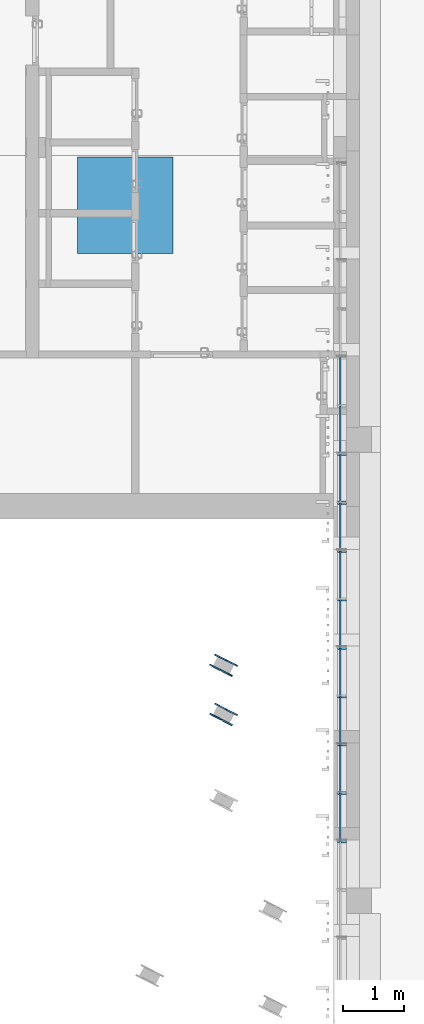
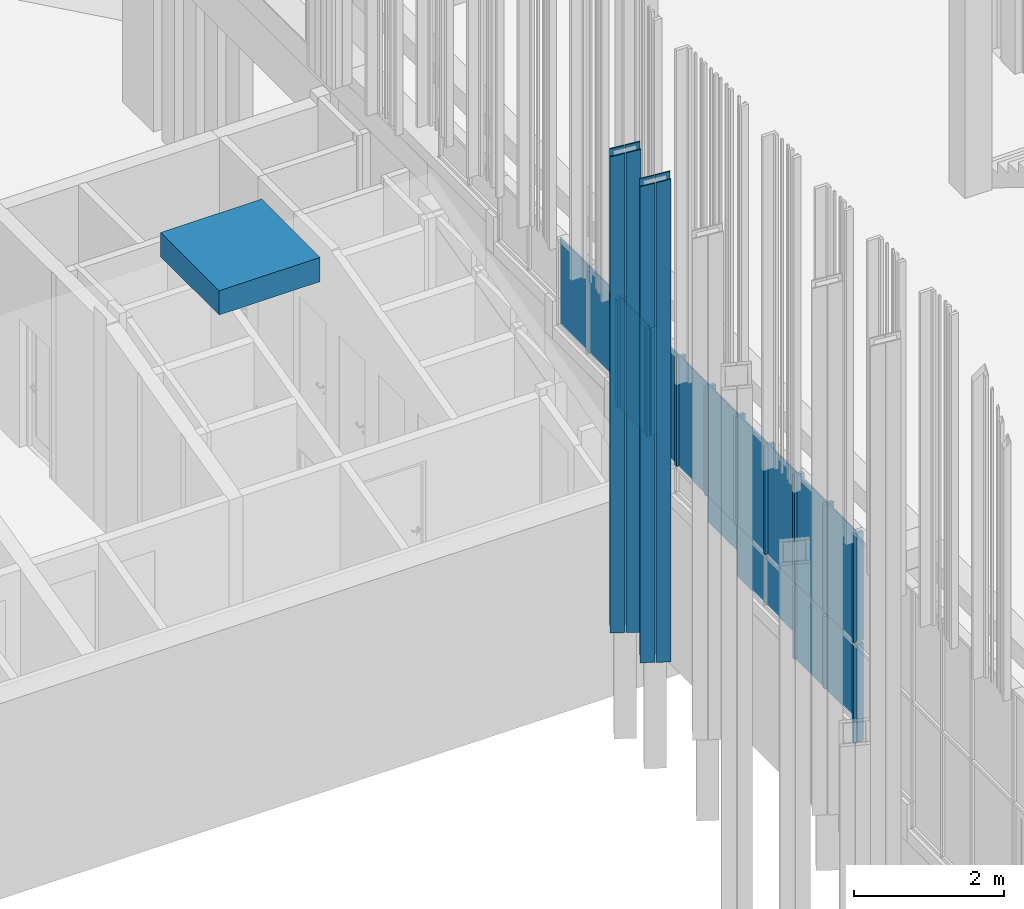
# One storey, part 31 of 390: 36 discrete accessories, 1 element without a shape of its own.
"""IFC2X3 building model written with IfcOpenShell, lengths in millimetres."""

from ifc_helpers import new_model, entity, si_unit, converted_unit, derived_unit, money_unit, direction, frame, origin_with_axes, place, context, subcontext, project, spatial, polyline, outline, extrude, faceted_brep, source, transform, mapped, material, material_list, type_object, element, aggregate, save


model = new_model("IFC2X3")

# Units and contexts
model_context = context("Model", 3, precision=1e-05, world=origin_with_axes(), true_north=direction((0.0, 1.0)))
body_context = subcontext(model_context, "Body", "Model", "MODEL_VIEW")
ifc_project = project(units=[si_unit("LENGTHUNIT", "METRE", prefix="MILLI"), si_unit("AREAUNIT", "SQUARE_METRE"), si_unit("VOLUMEUNIT", "CUBIC_METRE"), converted_unit("PLANEANGLEUNIT", "DEGREE", entity("IfcPlaneAngleMeasure", 0.0174532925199), si_unit("PLANEANGLEUNIT", "RADIAN"), dimensions=[0, 0, 0, 0, 0, 0, 0]), si_unit("SOLIDANGLEUNIT", "STERADIAN"), money_unit("EUR"), converted_unit("TIMEUNIT", "Year", entity("IfcTimeMeasure", 31556926.0), si_unit("TIMEUNIT", "SECOND"), dimensions=[0, 0, 1, 0, 0, 0, 0]), si_unit("MASSUNIT", "GRAM", prefix="KILO"), si_unit("THERMODYNAMICTEMPERATUREUNIT", "DEGREE_CELSIUS"), si_unit("LUMINOUSINTENSITYUNIT", "LUMEN"), si_unit("ENERGYUNIT", "JOULE", prefix="MEGA"), derived_unit("THERMALCONDUCTANCEUNIT", [(si_unit("POWERUNIT", "WATT"), 1), (si_unit("LENGTHUNIT", "METRE"), -1), (si_unit("THERMODYNAMICTEMPERATUREUNIT", "KELVIN"), -1)]), derived_unit("SPECIFICHEATCAPACITYUNIT", [(si_unit("ENERGYUNIT", "JOULE"), 1), (si_unit("MASSUNIT", "GRAM", prefix="KILO"), -1), (si_unit("THERMODYNAMICTEMPERATUREUNIT", "KELVIN"), -1)]), derived_unit("MASSDENSITYUNIT", [(si_unit("MASSUNIT", "GRAM", prefix="KILO"), 1), (si_unit("VOLUMEUNIT", "CUBIC_METRE"), -1)])], contexts=[model_context])

# Site, building, storey
site_placement = place(None, origin_with_axes())
site = spatial("IfcSite", under=ifc_project, at=site_placement, Name="Site", CompositionType="ELEMENT")
building_placement = place(site_placement, origin_with_axes())
building = spatial("IfcBuilding", under=site, at=building_placement, Name="Building", CompositionType="ELEMENT")
storey_placement = place(building_placement, origin_with_axes())
storey = spatial("IfcBuildingStorey", under=building, at=storey_placement, Name="1 korrus", CompositionType="ELEMENT", Elevation=0.0)

# Curtain wall, discrete accessories
curtain_wall_type = type_object("IfcCurtainWallType", Name="KLF-14", PredefinedType="NOTDEFINED")
curtain_wall_placement = place(storey_placement, frame((122599.999993, 59672.5295083, -0.000201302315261), z_axis=(0.0, 0.0, 1.0), x_axis=(1.0, 0.0, 0.0)))
curtain_wall = element("IfcCurtainWall", 1, at=curtain_wall_placement, inside=storey, type_object=curtain_wall_type, Name="Klaasfassaad")
ifc_material_1 = material(Name="Klaas")
discrete_accessory_type_1 = type_object("IfcDiscreteAccessoryType", Name="Distinct Panel 785 x 1820 x 20")
discrete_accessory_1_placement = place(curtain_wall_placement, frame((0.0, 0.0, 3220.71426755), z_axis=(0.0, 0.0, 1.0), x_axis=(1.7016819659e-10, -1.0, 0.0)))
discrete_accessory_1 = element("IfcDiscreteAccessory", 2, at=discrete_accessory_1_placement, type_object=discrete_accessory_type_1, material=ifc_material_1, Name="KLF-14 klaaspakett", context=body_context, shape_type="SweptSolid", body=[
    extrude(outline(polyline([(-550.470498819, -1184.28558336), (234.529510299, -1184.28558336), (234.529510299, 635.714138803), (229.960520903, 635.714138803), (229.960520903, 230.714538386), (-550.470498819, 230.714236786), (-550.470498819, -1184.28558336)])), frame((0.0, -9.99999999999, 0.0), z_axis=(0.0, 1.0, 0.0), x_axis=(1.0, 0.0, 0.0)), (0.0, 0.0, 1.0), 20.0),
])
discrete_accessory_2_placement = place(curtain_wall_placement, frame((1.04527941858e-06, -6142.0295103, 3504.99999553), z_axis=(0.0, 0.0, 1.0), x_axis=(1.70186299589e-10, -1.0, 0.0)))
discrete_accessory_2 = element("IfcDiscreteAccessory", 3, at=discrete_accessory_2_placement, type_object=discrete_accessory_type_1, material=ifc_material_1, Name="KLF-14 klaaspakett", context=body_context, shape_type="SweptSolid", body=[
    extrude(outline(polyline([(-392.500011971, -899.999855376), (392.499997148, -899.999855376), (392.499997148, 919.999866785), (-392.500011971, 919.999866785), (-392.500011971, -899.999855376)])), frame((0.0, -10.0, 0.0), z_axis=(0.0, 1.0, 0.0), x_axis=(1.0, 0.0, 0.0)), (0.0, 0.0, 1.0), 20.0),
])
discrete_accessory_3_placement = place(curtain_wall_placement, frame((7.77234276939e-07, -4567.0295103, 3504.99999553), z_axis=(0.0, 0.0, 1.0), x_axis=(1.70186299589e-10, -1.0, 0.0)))
discrete_accessory_3 = element("IfcDiscreteAccessory", 4, at=discrete_accessory_3_placement, type_object=discrete_accessory_type_1, material=ifc_material_1, Name="KLF-14 klaaspakett", context=body_context, shape_type="SweptSolid", body=[
    extrude(outline(polyline([(-392.500011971, -899.999855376), (392.499997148, -899.999855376), (392.499997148, 919.999866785), (-392.500011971, 919.999866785), (-392.500011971, -899.999855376)])), frame((0.0, -9.99999999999, 0.0), z_axis=(0.0, 1.0, 0.0), x_axis=(1.0, 0.0, 0.0)), (0.0, 0.0, 1.0), 20.0),
])
discrete_accessory_4_placement = place(curtain_wall_placement, frame((2.41172415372e-07, -1417.0295103, 3504.99999553), z_axis=(0.0, 0.0, 1.0), x_axis=(1.70186299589e-10, -1.0, 0.0)))
discrete_accessory_4 = element("IfcDiscreteAccessory", 5, at=discrete_accessory_4_placement, type_object=discrete_accessory_type_1, material=ifc_material_1, Name="KLF-14 klaaspakett", context=body_context, shape_type="SweptSolid", body=[
    extrude(outline(polyline([(-392.500011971, -899.999855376), (392.499997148, -899.999855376), (392.499997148, 919.999866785), (-392.500011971, 919.999866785), (-392.500011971, -899.999855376)])), frame((0.0, -10.0, 0.0), z_axis=(0.0, 1.0, 0.0), x_axis=(1.0, 0.0, 0.0)), (0.0, 0.0, 1.0), 20.0),
])
discrete_accessory_5_placement = place(curtain_wall_placement, frame((5.09203346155e-07, -2992.0295103, 3504.99999553), z_axis=(0.0, 0.0, 1.0), x_axis=(1.70186299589e-10, -1.0, 0.0)))
discrete_accessory_5 = element("IfcDiscreteAccessory", 6, at=discrete_accessory_5_placement, type_object=discrete_accessory_type_1, material=ifc_material_1, Name="KLF-14 klaaspakett", context=body_context, shape_type="SweptSolid", body=[
    extrude(outline(polyline([(-392.500011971, -899.999855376), (392.499997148, -899.999855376), (392.499997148, 919.999866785), (-392.500011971, 919.999866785), (-392.500011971, -899.999855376)])), frame((0.0, -10.0, 0.0), z_axis=(0.0, 1.0, 0.0), x_axis=(1.0, 0.0, 0.0)), (0.0, 0.0, 1.0), 20.0),
])
discrete_accessory_type_2 = type_object("IfcDiscreteAccessoryType", Name="Distinct Panel 790 x 1820 x 20")
discrete_accessory_6_placement = place(curtain_wall_placement, frame((3.75180775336e-07, -2204.5295103, 3504.99999553), z_axis=(0.0, 0.0, 1.0), x_axis=(1.70170488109e-10, -1.0, 0.0)))
discrete_accessory_6 = element("IfcDiscreteAccessory", 7, at=discrete_accessory_6_placement, type_object=discrete_accessory_type_2, material=ifc_material_1, Name="KLF-14 klaaspakett", context=body_context, shape_type="SweptSolid", body=[
    extrude(outline(polyline([(-395.000014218, -899.999860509), (395.0, -899.999860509), (395.0, 919.999858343), (-394.999986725, 919.999858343), (-395.000014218, -899.999860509)])), frame((0.0, -10.0, 0.0), z_axis=(0.0, 1.0, 0.0), x_axis=(1.0, 0.0, 0.0)), (0.0, 0.0, 1.0), 20.0),
])
discrete_accessory_7_placement = place(curtain_wall_placement, frame((6.43225916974e-07, -3779.5295103, 3504.99999553), z_axis=(0.0, 0.0, 1.0), x_axis=(1.70188476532e-10, -1.0, 0.0)))
discrete_accessory_7 = element("IfcDiscreteAccessory", 8, at=discrete_accessory_7_placement, type_object=discrete_accessory_type_2, material=ifc_material_1, Name="KLF-14 klaaspakett", context=body_context, shape_type="SweptSolid", body=[
    extrude(outline(polyline([(-395.000014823, -899.999855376), (394.999997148, -899.999855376), (394.999997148, 919.999866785), (-394.999987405, 919.999866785), (-395.000014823, -899.999855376)])), frame((0.0, -10.0, 0.0), z_axis=(0.0, 1.0, 0.0), x_axis=(1.0, 0.0, 0.0)), (0.0, 0.0, 1.0), 20.0),
])
discrete_accessory_8_placement = place(curtain_wall_placement, frame((9.11256847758e-07, -5354.5295103, 3504.99999553), z_axis=(0.0, 0.0, 1.0), x_axis=(1.70170488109e-10, -1.0, 0.0)))
discrete_accessory_8 = element("IfcDiscreteAccessory", 9, at=discrete_accessory_8_placement, type_object=discrete_accessory_type_2, material=ifc_material_1, Name="KLF-14 klaaspakett", context=body_context, shape_type="SweptSolid", body=[
    extrude(outline(polyline([(-395.000014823, -899.999855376), (394.999997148, -899.999855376), (394.999997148, 919.999866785), (-394.999987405, 919.999866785), (-395.000014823, -899.999855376)])), frame((0.0, -10.0, 0.0), z_axis=(0.0, 1.0, 0.0), x_axis=(1.0, 0.0, 0.0)), (0.0, 0.0, 1.0), 20.0),
])
discrete_accessory_9_placement = place(curtain_wall_placement, frame((1.07135633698e-07, -629.529510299, 3504.99999553), z_axis=(0.0, 0.0, 1.0), x_axis=(1.70188476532e-10, -1.0, 0.0)))
discrete_accessory_9 = element("IfcDiscreteAccessory", 10, at=discrete_accessory_9_placement, type_object=discrete_accessory_type_2, material=ifc_material_1, Name="KLF-14 klaaspakett", context=body_context, shape_type="SweptSolid", body=[
    extrude(outline(polyline([(-395.000014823, -899.999855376), (394.999997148, -899.999855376), (394.999997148, 919.999866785), (-394.999987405, 919.999866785), (-395.000014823, -899.999855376)])), frame((0.0, -10.0, 0.0), z_axis=(0.0, 1.0, 0.0), x_axis=(1.0, 0.0, 0.0)), (0.0, 0.0, 1.0), 20.0),
])
discrete_accessory_type_3 = type_object("IfcDiscreteAccessoryType", Name="Distinct Panel 785 x 1645 x 20")
discrete_accessory_10_placement = place(curtain_wall_placement, frame((1.07218056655e-06, -6300.00011646, 1512.85725766), z_axis=(0.0, 0.0, 1.0), x_axis=(1.70186299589e-10, -1.0, 0.0)))
discrete_accessory_10 = element("IfcDiscreteAccessory", 11, at=discrete_accessory_10_placement, type_object=discrete_accessory_type_3, material=ifc_material_1, Name="KLF-14 klaaspakett", context=body_context, shape_type="SweptSolid", body=[
    extrude(outline(polyline([(-550.470594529, -1072.14287108), (234.529392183, -1072.14287108), (234.529392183, 572.857077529), (229.960844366, 572.857077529), (229.960844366, 162.857264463), (-550.470619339, 162.857239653), (-550.470594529, -1072.14287108)])), frame((0.0, -10.0, 0.0), z_axis=(0.0, 1.0, 0.0), x_axis=(1.0, 0.0, 0.0)), (0.0, 0.0, 1.0), 20.0),
])
discrete_accessory_type_4 = type_object("IfcDiscreteAccessoryType", Name="Distinct Panel 790 x 1415 x 20")
discrete_accessory_11_placement = place(curtain_wall_placement, frame((-1.48205003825e-07, 871.012975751, 3551.99996361), z_axis=(0.0, 0.0, 1.0), x_axis=(1.70188476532e-10, -1.0, 0.0)))
discrete_accessory_11 = element("IfcDiscreteAccessory", 12, at=discrete_accessory_11_placement, type_object=discrete_accessory_type_4, material=ifc_material_1, Name="KLF-14 klaaspakett", context=body_context, shape_type="SweptSolid", body=[
    extrude(outline(polyline([(-469.457495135, -852.999895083), (320.542495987, -852.999895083), (320.542495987, 561.999938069), (-469.457495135, 561.999938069), (-469.457495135, -852.999895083)])), frame((0.0, -9.99999999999, 0.0), z_axis=(0.0, 1.0, 0.0), x_axis=(1.0, 0.0, 0.0)), (0.0, 0.0, 1.0), 20.0),
])
discrete_accessory_type_5 = type_object("IfcDiscreteAccessoryType", Name="Distinct Panel 785 x 1235 x 20")
discrete_accessory_12_placement = place(curtain_wall_placement, frame((8.04135424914e-07, -4725.00021854, 1805.71445895), z_axis=(0.0, 0.0, 1.0), x_axis=(1.70186299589e-10, -1.0, 0.0)))
discrete_accessory_12 = element("IfcDiscreteAccessory", 13, at=discrete_accessory_12_placement, type_object=discrete_accessory_type_5, material=ifc_material_1, Name="KLF-14 klaaspakett", context=body_context, shape_type="SweptSolid", body=[
    extrude(outline(polyline([(-550.470707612, -779.285669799), (234.529286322, -779.285669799), (234.529286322, 455.714308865), (229.960880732, 455.714308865), (229.960880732, 45.7141245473), (-550.470707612, 45.7141245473), (-550.470707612, -779.285669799)])), frame((0.0, -10.0, 0.0), z_axis=(0.0, 1.0, 0.0), x_axis=(1.0, 0.0, 0.0)), (0.0, 0.0, 1.0), 20.0),
])
discrete_accessory_type_6 = type_object("IfcDiscreteAccessoryType", Name="Distinct Panel 790 x 825 x 20")
discrete_accessory_13_placement = place(curtain_wall_placement, frame((6.5590199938e-07, -3853.98707404, 2078.00016672), z_axis=(0.0, 0.0, 1.0), x_axis=(1.70188476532e-10, -1.0, 0.0)))
discrete_accessory_13 = element("IfcDiscreteAccessory", 14, at=discrete_accessory_13_placement, type_object=discrete_accessory_type_6, material=ifc_material_1, Name="KLF-14 klaaspakett", context=body_context, shape_type="SweptSolid", body=[
    extrude(outline(polyline([(-469.457560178, -506.999962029), (320.542442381, -506.999962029), (320.542442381, 317.999821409), (-469.45757277, 318.000048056), (-469.457560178, -506.999962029)])), frame((0.0, -10.0, 0.0), z_axis=(0.0, 1.0, 0.0), x_axis=(1.0, 0.0, 0.0)), (0.0, 0.0, 1.0), 20.0),
])
discrete_accessory_type_7 = type_object("IfcDiscreteAccessoryType", Name="Distinct Panel 785 x 825 x 20")
discrete_accessory_14_placement = place(curtain_wall_placement, frame((5.36061861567e-07, -3150.00017068, 2098.57158526), z_axis=(0.0, 0.0, 1.0), x_axis=(1.70186299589e-10, -1.0, 0.0)))
discrete_accessory_14 = element("IfcDiscreteAccessory", 15, at=discrete_accessory_14_placement, type_object=discrete_accessory_type_7, material=ifc_material_1, Name="KLF-14 klaaspakett", context=body_context, shape_type="SweptSolid", body=[
    extrude(outline(polyline([(-550.47066294, -486.428543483), (234.52934574, -486.428543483), (234.52934574, 338.571466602), (229.960824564, 338.571466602), (229.960824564, -71.4285477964), (-550.470650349, -71.4285603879), (-550.47066294, -486.428543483)])), frame((0.0, -9.99999999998, 0.0), z_axis=(0.0, 1.0, 0.0), x_axis=(1.0, 0.0, 0.0)), (0.0, 0.0, 1.0), 20.0),
])
discrete_accessory_type_8 = type_object("IfcDiscreteAccessoryType", Name="Distinct Panel 790 x 1235 x 20")
discrete_accessory_15_placement = place(curtain_wall_placement, frame((9.23918719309e-07, -5428.98707036, 1832.00011143), z_axis=(0.0, 0.0, 1.0), x_axis=(1.70170488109e-10, -1.0, 0.0)))
discrete_accessory_15 = element("IfcDiscreteAccessory", 16, at=discrete_accessory_15_placement, type_object=discrete_accessory_type_8, material=ifc_material_1, Name="KLF-14 klaaspakett", context=body_context, shape_type="SweptSolid", body=[
    extrude(outline(polyline([(-469.457558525, -753.000017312), (320.542434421, -753.000017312), (320.542434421, 482.000111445), (-469.457558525, 481.999961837), (-469.457558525, -753.000017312)])), frame((0.0, -9.99999999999, 0.0), z_axis=(0.0, 1.0, 0.0), x_axis=(1.0, 0.0, 0.0)), (0.0, 0.0, 1.0), 20.0),
])
ifc_material_2 = material(Name="Aluminium MUST")
ifc_material_list = material_list([ifc_material_2, ifc_material_2])
discrete_accessory_type_9 = type_object("IfcDiscreteAccessoryType", Name="50 x 150")
discrete_accessory_16_placement = place(curtain_wall_placement, frame((3.07963432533e-07, -1809.5295103, 2585.00012874), z_axis=(0.0, 0.0, 1.0), x_axis=(1.70178393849e-10, -1.0, 0.0)))
discrete_accessory_16 = element("IfcDiscreteAccessory", 17, at=discrete_accessory_16_placement, type_object=discrete_accessory_type_9, material=ifc_material_list, Name="KLF-14 profiil", context=body_context, shape_type="SweptSolid", body=[
    extrude(outline(polyline([(100.000000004, -24.999999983), (99.9999999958, 25.000000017), (9.99999999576, 25.0000000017), (10.0000000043, -24.9999999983), (100.000000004, -24.999999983)])), frame((0.0, 0.0, 25.0), z_axis=(0.0, 0.0, 1.0), x_axis=(1.70178393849e-10, 1.0, 0.0)), (0.0, 0.0, 1.0), 1764.99973357),
    extrude(outline(polyline([(-50.0000000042, 24.9999999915), (-49.9999999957, -25.0000000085), (-9.99999999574, -25.0000000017), (-10.0000000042, 24.9999999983), (-50.0000000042, 24.9999999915)])), frame((0.0, 0.0, 25.0), z_axis=(0.0, 0.0, 1.0), x_axis=(1.70178393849e-10, 1.0, 0.0)), (0.0, 0.0, 1.0), 1764.99973357),
])
discrete_accessory_17_placement = place(curtain_wall_placement, frame((1.74367187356e-07, -1024.5295103, 2585.00012874), z_axis=(0.0, 0.0, 1.0), x_axis=(1.70187388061e-10, -1.0, 0.0)))
discrete_accessory_17 = element("IfcDiscreteAccessory", 18, at=discrete_accessory_17_placement, type_object=discrete_accessory_type_9, material=ifc_material_list, Name="KLF-14 profiil", context=body_context, shape_type="SweptSolid", body=[
    extrude(outline(polyline([(100.000000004, -24.999999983), (99.9999999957, 25.000000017), (9.99999999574, 25.0000000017), (10.0000000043, -24.9999999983), (100.000000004, -24.999999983)])), frame((0.0, 0.0, 25.0), z_axis=(0.0, 0.0, 1.0), x_axis=(1.70187388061e-10, 1.0, 0.0)), (0.0, 0.0, 1.0), 1764.99973357),
    extrude(outline(polyline([(-50.0000000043, 24.9999999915), (-49.9999999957, -25.0000000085), (-9.99999999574, -25.0000000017), (-10.0000000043, 24.9999999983), (-50.0000000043, 24.9999999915)])), frame((0.0, 0.0, 25.0), z_axis=(0.0, 0.0, 1.0), x_axis=(1.70187388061e-10, 1.0, 0.0)), (0.0, 0.0, 1.0), 1764.99973357),
])
discrete_accessory_18_placement = place(curtain_wall_placement, frame((3.9918290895e-08, -234.529510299, 2585.00012874), z_axis=(0.0, 0.0, 1.0), x_axis=(1.70178336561e-10, -1.0, 0.0)))
discrete_accessory_18 = element("IfcDiscreteAccessory", 19, at=discrete_accessory_18_placement, type_object=discrete_accessory_type_9, material=ifc_material_list, Name="KLF-14 profiil", context=body_context, shape_type="SweptSolid", body=[
    extrude(outline(polyline([(100.000000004, -24.999999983), (99.9999999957, 25.000000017), (9.99999999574, 25.0000000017), (10.0000000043, -24.9999999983), (100.000000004, -24.999999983)])), frame((0.0, 0.0, 25.0), z_axis=(0.0, 0.0, 1.0), x_axis=(1.70178336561e-10, 1.0, 0.0)), (0.0, 0.0, 1.0), 1764.99973357),
    extrude(outline(polyline([(-50.0000000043, 24.9999999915), (-49.9999999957, -25.0000000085), (-9.99999999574, -25.0000000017), (-10.0000000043, 24.9999999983), (-50.0000000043, 24.9999999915)])), frame((0.0, 0.0, 25.0), z_axis=(0.0, 0.0, 1.0), x_axis=(1.70178336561e-10, 1.0, 0.0)), (0.0, 0.0, 1.0), 1764.99973357),
])
discrete_accessory_19_placement = place(curtain_wall_placement, frame((1.11207043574e-06, -6534.5295103, 2585.00012874), z_axis=(0.0, 0.0, 1.0), x_axis=(1.70187388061e-10, -1.0, 0.0)))
discrete_accessory_19 = element("IfcDiscreteAccessory", 20, at=discrete_accessory_19_placement, type_object=discrete_accessory_type_9, material=ifc_material_list, Name="KLF-14 profiil", context=body_context, shape_type="SweptSolid", body=[
    extrude(outline(polyline([(100.000000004, -24.999999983), (99.9999999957, 25.000000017), (9.99999999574, 25.0000000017), (10.0000000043, -24.9999999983), (100.000000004, -24.999999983)])), frame((0.0, 0.0, 25.0), z_axis=(0.0, 0.0, 1.0), x_axis=(1.70187388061e-10, 1.0, 0.0)), (0.0, 0.0, 1.0), 1764.99973357),
    extrude(outline(polyline([(-50.0000000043, 24.9999999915), (-49.9999999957, -25.0000000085), (-9.99999999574, -25.0000000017), (-10.0000000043, 24.9999999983), (-50.0000000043, 24.9999999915)])), frame((0.0, 0.0, 25.0), z_axis=(0.0, 0.0, 1.0), x_axis=(1.70187388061e-10, 1.0, 0.0)), (0.0, 0.0, 1.0), 1764.99973357),
])
discrete_accessory_20_placement = place(curtain_wall_placement, frame((1.11207043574e-06, -6534.5295103, 920.000173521), z_axis=(0.0, 0.0, 1.0), x_axis=(1.70187388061e-10, -1.0, 0.0)))
discrete_accessory_20 = element("IfcDiscreteAccessory", 21, at=discrete_accessory_20_placement, type_object=discrete_accessory_type_9, material=ifc_material_list, Name="KLF-14 profiil", context=body_context, shape_type="SweptSolid", body=[
    extrude(outline(polyline([(100.000000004, -24.999999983), (99.9999999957, 25.000000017), (9.99999999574, 25.0000000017), (10.0000000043, -24.9999999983), (100.000000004, -24.999999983)])), frame((0.0, 0.0, 50.0), z_axis=(0.0, 0.0, 1.0), x_axis=(1.70187388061e-10, 1.0, 0.0)), (0.0, 0.0, 1.0), 1589.99995522),
    extrude(outline(polyline([(-50.0000000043, 24.9999999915), (-49.9999999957, -25.0000000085), (-9.99999999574, -25.0000000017), (-10.0000000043, 24.9999999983), (-50.0000000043, 24.9999999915)])), frame((0.0, 0.0, 50.0), z_axis=(0.0, 0.0, 1.0), x_axis=(1.70187388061e-10, 1.0, 0.0)), (0.0, 0.0, 1.0), 1589.99995522),
])
discrete_accessory_21_placement = place(curtain_wall_placement, frame((9.78474190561e-07, -5749.5295103, 1330.00000819), z_axis=(0.0, 0.0, 1.0), x_axis=(1.70178393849e-10, -1.0, 0.0)))
discrete_accessory_21 = element("IfcDiscreteAccessory", 22, at=discrete_accessory_21_placement, type_object=discrete_accessory_type_9, material=ifc_material_list, Name="KLF-14 profiil", context=body_context, shape_type="SweptSolid", body=[
    extrude(outline(polyline([(100.000000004, -24.999999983), (99.9999999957, 25.000000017), (9.99999999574, 25.0000000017), (10.0000000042, -24.9999999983), (100.000000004, -24.999999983)])), frame((0.0, 0.0, 50.0000001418), z_axis=(0.0, 0.0, 1.0), x_axis=(1.70178393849e-10, 1.0, 0.0)), (0.0, 0.0, 1.0), 1180.00012041),
    extrude(outline(polyline([(-50.0000000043, 24.9999999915), (-49.9999999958, -25.0000000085), (-9.99999999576, -25.0000000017), (-10.0000000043, 24.9999999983), (-50.0000000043, 24.9999999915)])), frame((0.0, 0.0, 49.999999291), z_axis=(0.0, 0.0, 1.0), x_axis=(1.70178393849e-10, 1.0, 0.0)), (0.0, 0.0, 1.0), 1180.00012126),
])
discrete_accessory_22_placement = place(curtain_wall_placement, frame((8.44039504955e-07, -4959.5295103, 1330.00014574), z_axis=(0.0, 0.0, 1.0), x_axis=(1.70178393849e-10, -1.0, 0.0)))
discrete_accessory_22 = element("IfcDiscreteAccessory", 23, at=discrete_accessory_22_placement, type_object=discrete_accessory_type_9, material=ifc_material_list, Name="KLF-14 profiil", context=body_context, shape_type="SweptSolid", body=[
    extrude(outline(polyline([(100.000000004, -24.999999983), (99.9999999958, 25.000000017), (9.99999999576, 25.0000000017), (10.0000000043, -24.9999999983), (100.000000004, -24.999999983)])), frame((0.0, 0.0, 50.0), z_axis=(0.0, 0.0, 1.0), x_axis=(1.70178393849e-10, 1.0, 0.0)), (0.0, 0.0, 1.0), 1179.99998301),
    extrude(outline(polyline([(-50.0000000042, 24.9999999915), (-49.9999999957, -25.0000000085), (-9.99999999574, -25.0000000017), (-10.0000000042, 24.9999999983), (-50.0000000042, 24.9999999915)])), frame((0.0, 0.0, 50.0), z_axis=(0.0, 0.0, 1.0), x_axis=(1.70178393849e-10, 1.0, 0.0)), (0.0, 0.0, 1.0), 1179.99998301),
])
discrete_accessory_23_placement = place(curtain_wall_placement, frame((9.78474190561e-07, -5749.5295103, 2585.00012874), z_axis=(0.0, 0.0, 1.0), x_axis=(1.70178393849e-10, -1.0, 0.0)))
discrete_accessory_23 = element("IfcDiscreteAccessory", 24, at=discrete_accessory_23_placement, type_object=discrete_accessory_type_9, material=ifc_material_list, Name="KLF-14 profiil", context=body_context, shape_type="SweptSolid", body=[
    extrude(outline(polyline([(100.000000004, -24.999999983), (99.9999999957, 25.000000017), (9.99999999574, 25.0000000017), (10.0000000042, -24.9999999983), (100.000000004, -24.999999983)])), frame((0.0, 0.0, 25.0), z_axis=(0.0, 0.0, 1.0), x_axis=(1.70178393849e-10, 1.0, 0.0)), (0.0, 0.0, 1.0), 1764.99973357),
    extrude(outline(polyline([(-50.0000000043, 24.9999999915), (-49.9999999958, -25.0000000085), (-9.99999999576, -25.0000000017), (-10.0000000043, 24.9999999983), (-50.0000000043, 24.9999999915)])), frame((0.0, 0.0, 25.0), z_axis=(0.0, 0.0, 1.0), x_axis=(1.70178393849e-10, 1.0, 0.0)), (0.0, 0.0, 1.0), 1764.99973357),
])
discrete_accessory_24_placement = place(curtain_wall_placement, frame((5.75994363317e-07, -3384.5295103, 2585.00012874), z_axis=(0.0, 0.0, 1.0), x_axis=(1.70187388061e-10, -1.0, 0.0)))
discrete_accessory_24 = element("IfcDiscreteAccessory", 25, at=discrete_accessory_24_placement, type_object=discrete_accessory_type_9, material=ifc_material_list, Name="KLF-14 profiil", context=body_context, shape_type="SweptSolid", body=[
    extrude(outline(polyline([(100.000000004, -24.999999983), (99.9999999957, 25.000000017), (9.99999999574, 25.0000000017), (10.0000000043, -24.9999999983), (100.000000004, -24.999999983)])), frame((0.0, 0.0, 25.0), z_axis=(0.0, 0.0, 1.0), x_axis=(1.70187388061e-10, 1.0, 0.0)), (0.0, 0.0, 1.0), 1764.99973357),
    extrude(outline(polyline([(-50.0000000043, 24.9999999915), (-49.9999999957, -25.0000000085), (-9.99999999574, -25.0000000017), (-10.0000000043, 24.9999999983), (-50.0000000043, 24.9999999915)])), frame((0.0, 0.0, 25.0), z_axis=(0.0, 0.0, 1.0), x_axis=(1.70187388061e-10, 1.0, 0.0)), (0.0, 0.0, 1.0), 1764.99973357),
])
discrete_accessory_25_placement = place(curtain_wall_placement, frame((4.42398118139e-07, -2599.5295103, 2585.00012874), z_axis=(0.0, 0.0, 1.0), x_axis=(1.70178393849e-10, -1.0, 0.0)))
discrete_accessory_25 = element("IfcDiscreteAccessory", 26, at=discrete_accessory_25_placement, type_object=discrete_accessory_type_9, material=ifc_material_list, Name="KLF-14 profiil", context=body_context, shape_type="SweptSolid", body=[
    extrude(outline(polyline([(100.000000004, -24.999999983), (99.9999999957, 25.000000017), (9.99999999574, 25.0000000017), (10.0000000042, -24.9999999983), (100.000000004, -24.999999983)])), frame((0.0, 0.0, 25.0), z_axis=(0.0, 0.0, 1.0), x_axis=(1.70178393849e-10, 1.0, 0.0)), (0.0, 0.0, 1.0), 1764.99973357),
    extrude(outline(polyline([(-50.0000000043, 24.9999999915), (-49.9999999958, -25.0000000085), (-9.99999999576, -25.0000000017), (-10.0000000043, 24.9999999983), (-50.0000000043, 24.9999999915)])), frame((0.0, 0.0, 25.0), z_axis=(0.0, 0.0, 1.0), x_axis=(1.70178393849e-10, 1.0, 0.0)), (0.0, 0.0, 1.0), 1764.99973357),
])
discrete_accessory_26_placement = place(curtain_wall_placement, frame((8.44039504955e-07, -4959.5295103, 2585.00012874), z_axis=(0.0, 0.0, 1.0), x_axis=(1.70178393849e-10, -1.0, 0.0)))
discrete_accessory_26 = element("IfcDiscreteAccessory", 27, at=discrete_accessory_26_placement, type_object=discrete_accessory_type_9, material=ifc_material_list, Name="KLF-14 profiil", context=body_context, shape_type="SweptSolid", body=[
    extrude(outline(polyline([(100.000000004, -24.999999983), (99.9999999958, 25.000000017), (9.99999999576, 25.0000000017), (10.0000000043, -24.9999999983), (100.000000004, -24.999999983)])), frame((0.0, 0.0, 25.0), z_axis=(0.0, 0.0, 1.0), x_axis=(1.70178393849e-10, 1.0, 0.0)), (0.0, 0.0, 1.0), 1764.99973357),
    extrude(outline(polyline([(-50.0000000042, 24.9999999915), (-49.9999999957, -25.0000000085), (-9.99999999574, -25.0000000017), (-10.0000000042, 24.9999999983), (-50.0000000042, 24.9999999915)])), frame((0.0, 0.0, 25.0), z_axis=(0.0, 0.0, 1.0), x_axis=(1.70178393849e-10, 1.0, 0.0)), (0.0, 0.0, 1.0), 1764.99973357),
])
discrete_accessory_27_placement = place(curtain_wall_placement, frame((7.10443259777e-07, -4174.5295103, 2585.00012874), z_axis=(0.0, 0.0, 1.0), x_axis=(1.70187388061e-10, -1.0, 0.0)))
discrete_accessory_27 = element("IfcDiscreteAccessory", 28, at=discrete_accessory_27_placement, type_object=discrete_accessory_type_9, material=ifc_material_list, Name="KLF-14 profiil", context=body_context, shape_type="SweptSolid", body=[
    extrude(outline(polyline([(100.000000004, -24.999999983), (99.9999999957, 25.000000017), (9.99999999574, 25.0000000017), (10.0000000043, -24.9999999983), (100.000000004, -24.999999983)])), frame((0.0, 0.0, 25.0), z_axis=(0.0, 0.0, 1.0), x_axis=(1.70187388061e-10, 1.0, 0.0)), (0.0, 0.0, 1.0), 1764.99973357),
    extrude(outline(polyline([(-50.0000000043, 24.9999999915), (-49.9999999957, -25.0000000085), (-9.99999999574, -25.0000000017), (-10.0000000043, 24.9999999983), (-50.0000000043, 24.9999999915)])), frame((0.0, 0.0, 25.0), z_axis=(0.0, 0.0, 1.0), x_axis=(1.70187388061e-10, 1.0, 0.0)), (0.0, 0.0, 1.0), 1764.99973357),
])
aggregate(curtain_wall, [discrete_accessory_1, discrete_accessory_2, discrete_accessory_3, discrete_accessory_10, discrete_accessory_11, discrete_accessory_12, discrete_accessory_4, discrete_accessory_6, discrete_accessory_5, discrete_accessory_13, discrete_accessory_7, discrete_accessory_14, discrete_accessory_15, discrete_accessory_8, discrete_accessory_9, discrete_accessory_16, discrete_accessory_17, discrete_accessory_18, discrete_accessory_19, discrete_accessory_20, discrete_accessory_21, discrete_accessory_22, discrete_accessory_23, discrete_accessory_24, discrete_accessory_25, discrete_accessory_26, discrete_accessory_27])

# Discrete accessories
ifc_material_3 = material(Name="GENEERILINE - VÄLINE VOODER")
discrete_accessory_type_10 = type_object("IfcDiscreteAccessoryType", Name="GENEERILINE - VÄLINE VOODER")
shared_shape_1 = source(origin_with_axes(), body_context, "Body", "Brep", [
    faceted_brep([(-162240.327285, 119860.742798, 1742.0), (-162215.953417, 119662.233568, 1742.0), (-162215.953417, 119662.233568, 9543.73066959), (-162240.327285, 119860.742798, 9490.1408311), (-162218.49127, 119863.423924, 1742.0), (-162194.117401, 119664.914694, 1742.0), (-162194.117401, 119664.914694, 9543.73066959), (-162218.49127, 119863.423924, 9490.1408311)], [[[0, 1, 2, 3]], [[1, 0, 4, 5]], [[1, 5, 6, 2]], [[7, 3, 2, 6]], [[4, 0, 3, 7]], [[5, 4, 7, 6]]]),
])
for number, where, z_axis, x_axis in (
    (29, (310646.361817, 123643.839524, 0.0), (0.0, 0.0, 1.0), (0.559192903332, 0.829037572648, 0.0)),
    (30, (310646.361817, 122843.839524, 0.0), (0.0, 0.0, 1.0), (0.559192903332, 0.829037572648, 0.0)),
):
    element("IfcDiscreteAccessory", number, at=place(storey_placement, frame(where, z_axis=z_axis, x_axis=x_axis)), inside=storey, type_object=discrete_accessory_type_10, material=ifc_material_3, Name="Päikesevarjestuspost", context=body_context, shape_type="MappedRepresentation", body=[
        mapped(shared_shape_1, transform((0.0, 0.0, 0.0))),
    ])
shared_shape_2 = source(origin_with_axes(), body_context, "Body", "Brep", [
    faceted_brep([(-162214.734723, 119652.308107, 1742.0), (-162190.360855, 119453.798876, 1742.0), (-162190.360855, 119453.798876, 9600.0), (-162214.734723, 119652.308107, 9546.41016151), (-162192.898708, 119654.989232, 1742.0), (-162168.524839, 119456.480002, 1742.0), (-162168.524839, 119456.480002, 9600.0), (-162192.898708, 119654.989232, 9546.41016151)], [[[0, 1, 2, 3]], [[1, 0, 4, 5]], [[2, 1, 5, 6]], [[7, 3, 2, 6]], [[4, 0, 3, 7]], [[5, 4, 7, 6]]]),
])
for number, where, z_axis, x_axis in (
    (31, (310646.361817, 123643.839524, 0.0), (0.0, 0.0, 1.0), (0.559192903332, 0.829037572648, 0.0)),
    (32, (310646.361817, 122843.839524, 0.0), (0.0, 0.0, 1.0), (0.559192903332, 0.829037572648, 0.0)),
):
    element("IfcDiscreteAccessory", number, at=place(storey_placement, frame(where, z_axis=z_axis, x_axis=x_axis)), inside=storey, type_object=discrete_accessory_type_10, material=ifc_material_3, Name="Päikesevarjestuspost", context=body_context, shape_type="MappedRepresentation", body=[
        mapped(shared_shape_2, transform((0.0, 0.0, 0.0))),
    ])
shared_shape_3 = source(origin_with_axes(), body_context, "Body", "Brep", [
    faceted_brep([(162215.953417, 119662.233568, 1742.0), (162215.953417, 119662.233568, 9543.73066959), (162194.117401, 119664.914694, 9543.73066959), (162194.117401, 119664.914694, 1742.0), (162240.327285, 119860.742798, 1742.0), (162240.327285, 119860.742798, 9490.1408311), (162218.49127, 119863.423924, 9490.1408311), (162218.49127, 119863.423924, 1742.0)], [[[0, 1, 2, 3]], [[1, 0, 4, 5]], [[2, 1, 5, 6]], [[3, 2, 6, 7]], [[0, 3, 7, 4]], [[7, 6, 5, 4]]]),
])
for number, where, z_axis, x_axis in (
    (33, (177623.819958, -137427.598652, 0.0), (0.0, 0.0, 1.0), (0.342020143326, 0.939692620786, 0.0)),
    (34, (177623.819958, -138227.598652, 0.0), (0.0, 0.0, 1.0), (0.342020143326, 0.939692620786, 0.0)),
):
    element("IfcDiscreteAccessory", number, at=place(storey_placement, frame(where, z_axis=z_axis, x_axis=x_axis)), inside=storey, type_object=discrete_accessory_type_10, material=ifc_material_3, Name="Päikesevarjestuspost", context=body_context, shape_type="MappedRepresentation", body=[
        mapped(shared_shape_3, transform((0.0, 0.0, 0.0))),
    ])
shared_shape_4 = source(origin_with_axes(), body_context, "Body", "Brep", [
    faceted_brep([(162190.360855, 119453.798876, 1742.0), (162190.360855, 119453.798876, 9600.0), (162168.524839, 119456.480002, 9600.0), (162168.524839, 119456.480002, 1742.0), (162214.734723, 119652.308107, 1742.0), (162214.734723, 119652.308107, 9546.41016151), (162192.898708, 119654.989232, 9546.41016151), (162192.898708, 119654.989232, 1742.0)], [[[0, 1, 2, 3]], [[1, 0, 4, 5]], [[2, 1, 5, 6]], [[3, 2, 6, 7]], [[0, 3, 7, 4]], [[7, 6, 5, 4]]]),
])
for number, where, z_axis, x_axis in (
    (35, (177623.819958, -137427.598652, 0.0), (0.0, 0.0, 1.0), (0.342020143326, 0.939692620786, 0.0)),
    (36, (177623.819958, -138227.598652, 0.0), (0.0, 0.0, 1.0), (0.342020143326, 0.939692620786, 0.0)),
):
    element("IfcDiscreteAccessory", number, at=place(storey_placement, frame(where, z_axis=z_axis, x_axis=x_axis)), inside=storey, type_object=discrete_accessory_type_10, material=ifc_material_3, Name="Päikesevarjestuspost", context=body_context, shape_type="MappedRepresentation", body=[
        mapped(shared_shape_4, transform((0.0, 0.0, 0.0))),
    ])
ifc_material_4 = material(Name="Teras (musta värvi)")
discrete_accessory_type_11 = type_object("IfcDiscreteAccessoryType", Name="Teras (musta värvi) 395")
discrete_accessory_28_placement = place(storey_placement, frame((118323.105312, 64271.5611065, 4000.23675989), z_axis=(0.0, 0.0, 1.0), x_axis=(1.0, 0.0, 0.0)))
element("IfcDiscreteAccessory", 37, at=discrete_accessory_28_placement, inside=storey, type_object=discrete_accessory_type_11, material=ifc_material_4, Name="Kasvumuld", context=body_context, shape_type="SweptSolid", body=[
    extrude(outline(polyline([(0.0, 0.0), (0.0, -1563.99774399), (1555.0, -1563.99774399), (1555.0, 0.0), (0.0, 0.0)])), frame((0.0, 0.0, -395.0), z_axis=(0.0, 0.0, 1.0), x_axis=(1.0, 0.0, 0.0)), (0.0, 0.0, 1.0), 395.0),
])

save(model, "model.ifc")
